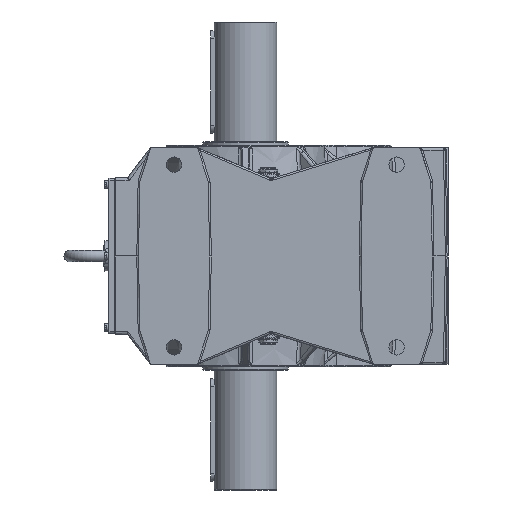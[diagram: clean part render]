
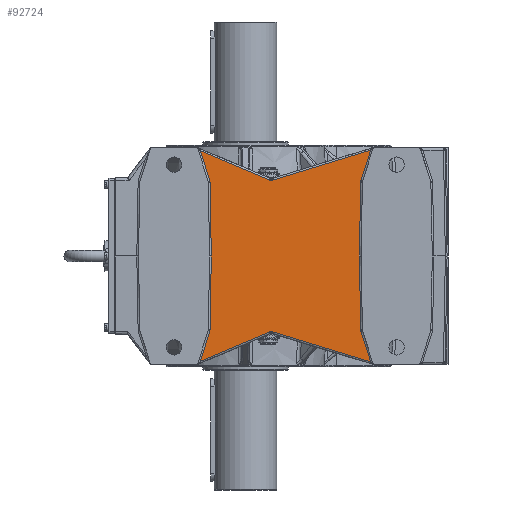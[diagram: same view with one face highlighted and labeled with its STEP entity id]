
A CAD part, left-side view. The second image highlights one B-rep face of the part: STEP entity #92724.
In plain terms, the highlighted planar face has unit normal (-1, 0, 0).
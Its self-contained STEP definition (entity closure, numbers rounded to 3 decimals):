
#92255=CARTESIAN_POINT('',(-225.0,62.36,-131.6));
#92256=VERTEX_POINT('',#92255);
#92264=CARTESIAN_POINT('',(-225.0,61.988,-129.324));
#92265=VERTEX_POINT('',#92264);
#92266=CARTESIAN_POINT('',(-225.0,69.987,-129.185));
#92267=DIRECTION('',(-1.0,0.,0.));
#92268=DIRECTION('',(0.,-0.987,-0.161));
#92269=AXIS2_PLACEMENT_3D('',#92266,#92267,#92268);
#92270=CIRCLE('',#92269,8.0);
#92271=EDGE_CURVE('',#92256,#92265,#92270,.T.);
#92297=CARTESIAN_POINT('',(-225.0,62.36,131.6));
#92298=VERTEX_POINT('',#92297);
#92307=CARTESIAN_POINT('',(-225.0,61.988,129.324));
#92308=VERTEX_POINT('',#92307);
#92316=CARTESIAN_POINT('',(-225.0,69.987,129.185));
#92317=DIRECTION('',(-1.0,0.,0.));
#92318=DIRECTION('',(0.,-0.987,0.161));
#92319=AXIS2_PLACEMENT_3D('',#92316,#92317,#92318);
#92320=CIRCLE('',#92319,8.0);
#92321=EDGE_CURVE('',#92308,#92298,#92320,.T.);
#92333=CARTESIAN_POINT('',(-225.0,59.73,0.));
#92334=VERTEX_POINT('',#92333);
#92342=CARTESIAN_POINT('',(-225.0,59.73,0.));
#92343=DIRECTION('',(0.0,0.017,1.));
#92344=VECTOR('',#92343,129.344);
#92345=LINE('',#92342,#92344);
#92346=EDGE_CURVE('',#92334,#92308,#92345,.T.);
#92357=CARTESIAN_POINT('',(-225.0,61.988,-129.324));
#92358=DIRECTION('',(0.0,-0.017,1.));
#92359=VECTOR('',#92358,129.344);
#92360=LINE('',#92357,#92359);
#92361=EDGE_CURVE('',#92265,#92334,#92360,.T.);
#92378=CARTESIAN_POINT('',(-225.,-219.416,185.461));
#92379=VERTEX_POINT('',#92378);
#92389=CARTESIAN_POINT('',(-225.,-202.36,131.6));
#92390=VERTEX_POINT('',#92389);
#92391=CARTESIAN_POINT('',(-225.,-219.416,185.461));
#92392=DIRECTION('',(0.0,0.302,-0.953));
#92393=VECTOR('',#92392,56.498);
#92394=LINE('',#92391,#92393);
#92395=EDGE_CURVE('',#92379,#92390,#92394,.T.);
#92430=CARTESIAN_POINT('',(-225.,-201.988,129.324));
#92431=VERTEX_POINT('',#92430);
#92432=CARTESIAN_POINT('',(-225.,-209.987,129.185));
#92433=DIRECTION('',(-1.0,0.,0.));
#92434=DIRECTION('',(0.,0.987,0.161));
#92435=AXIS2_PLACEMENT_3D('',#92432,#92433,#92434);
#92436=CIRCLE('',#92435,8.);
#92437=EDGE_CURVE('',#92390,#92431,#92436,.T.);
#92463=CARTESIAN_POINT('',(-225.,-202.36,-131.6));
#92464=VERTEX_POINT('',#92463);
#92483=CARTESIAN_POINT('',(-225.,-201.988,-129.324));
#92484=VERTEX_POINT('',#92483);
#92492=CARTESIAN_POINT('',(-225.,-209.987,-129.185));
#92493=DIRECTION('',(-1.0,0.,0.));
#92494=DIRECTION('',(0.,0.987,-0.161));
#92495=AXIS2_PLACEMENT_3D('',#92492,#92493,#92494);
#92496=CIRCLE('',#92495,8.);
#92497=EDGE_CURVE('',#92484,#92464,#92496,.T.);
#92516=CARTESIAN_POINT('',(-225.,-199.73,0.));
#92517=VERTEX_POINT('',#92516);
#92525=CARTESIAN_POINT('',(-225.,-199.73,0.));
#92526=DIRECTION('',(0.0,-0.017,-1.));
#92527=VECTOR('',#92526,129.344);
#92528=LINE('',#92525,#92527);
#92529=EDGE_CURVE('',#92517,#92484,#92528,.T.);
#92540=CARTESIAN_POINT('',(-225.,-201.988,129.324));
#92541=DIRECTION('',(0.0,0.017,-1.));
#92542=VECTOR('',#92541,129.344);
#92543=LINE('',#92540,#92542);
#92544=EDGE_CURVE('',#92431,#92517,#92543,.T.);
#92627=CARTESIAN_POINT('',(-225.0,79.172,184.692));
#92628=VERTEX_POINT('',#92627);
#92629=CARTESIAN_POINT('',(-225.0,62.36,131.6));
#92630=DIRECTION('',(0.0,0.302,0.953));
#92631=VECTOR('',#92630,55.69);
#92632=LINE('',#92629,#92631);
#92633=EDGE_CURVE('',#92298,#92628,#92632,.T.);
#92645=CARTESIAN_POINT('',(-225.,-350.0,0.0));
#92646=DIRECTION('',(-1.0,0.0,0.0));
#92647=DIRECTION('',(0.0,0.0,1.0));
#92648=AXIS2_PLACEMENT_3D('',#92645,#92646,#92647);
#92649=PLANE('',#92648);
#92650=CARTESIAN_POINT('',(-225.,-219.416,-185.461));
#92651=VERTEX_POINT('',#92650);
#92652=CARTESIAN_POINT('',(-225.,-46.878,-132.711));
#92653=VERTEX_POINT('',#92652);
#92654=CARTESIAN_POINT('',(-225.,-219.416,-185.461));
#92655=DIRECTION('',(0.,0.956,0.292));
#92656=VECTOR('',#92655,180.421);
#92657=LINE('',#92654,#92656);
#92658=EDGE_CURVE('',#92651,#92653,#92657,.T.);
#92659=ORIENTED_EDGE('',*,*,#92658,.F.);
#92660=CARTESIAN_POINT('',(-225.,-202.36,-131.6));
#92661=DIRECTION('',(0.0,-0.302,-0.953));
#92662=VECTOR('',#92661,56.498);
#92663=LINE('',#92660,#92662);
#92664=EDGE_CURVE('',#92464,#92651,#92663,.T.);
#92665=ORIENTED_EDGE('',*,*,#92664,.F.);
#92666=ORIENTED_EDGE('',*,*,#92497,.F.);
#92667=ORIENTED_EDGE('',*,*,#92529,.F.);
#92668=ORIENTED_EDGE('',*,*,#92544,.F.);
#92669=ORIENTED_EDGE('',*,*,#92437,.F.);
#92670=ORIENTED_EDGE('',*,*,#92395,.F.);
#92671=CARTESIAN_POINT('',(-225.,-46.878,132.711));
#92672=VERTEX_POINT('',#92671);
#92673=CARTESIAN_POINT('',(-225.,-46.878,132.711));
#92674=DIRECTION('',(0.,-0.956,0.292));
#92675=VECTOR('',#92674,180.421);
#92676=LINE('',#92673,#92675);
#92677=EDGE_CURVE('',#92672,#92379,#92676,.T.);
#92678=ORIENTED_EDGE('',*,*,#92677,.F.);
#92679=CARTESIAN_POINT('',(-225.,-42.78,132.926));
#92680=VERTEX_POINT('',#92679);
#92681=CARTESIAN_POINT('',(-225.,-45.124,138.449));
#92682=DIRECTION('',(-1.0,0.,0.));
#92683=DIRECTION('',(0.,0.052,-0.999));
#92684=AXIS2_PLACEMENT_3D('',#92681,#92682,#92683);
#92685=CIRCLE('',#92684,6.);
#92686=EDGE_CURVE('',#92680,#92672,#92685,.T.);
#92687=ORIENTED_EDGE('',*,*,#92686,.F.);
#92688=CARTESIAN_POINT('',(-225.0,79.172,184.692));
#92689=DIRECTION('',(0.,-0.921,-0.391));
#92690=VECTOR('',#92689,132.484);
#92691=LINE('',#92688,#92690);
#92692=EDGE_CURVE('',#92628,#92680,#92691,.T.);
#92693=ORIENTED_EDGE('',*,*,#92692,.F.);
#92694=ORIENTED_EDGE('',*,*,#92633,.F.);
#92695=ORIENTED_EDGE('',*,*,#92321,.F.);
#92696=ORIENTED_EDGE('',*,*,#92346,.F.);
#92697=ORIENTED_EDGE('',*,*,#92361,.F.);
#92698=ORIENTED_EDGE('',*,*,#92271,.F.);
#92699=CARTESIAN_POINT('',(-225.0,79.172,-184.692));
#92700=VERTEX_POINT('',#92699);
#92701=CARTESIAN_POINT('',(-225.0,79.172,-184.692));
#92702=DIRECTION('',(0.0,-0.302,0.953));
#92703=VECTOR('',#92702,55.69);
#92704=LINE('',#92701,#92703);
#92705=EDGE_CURVE('',#92700,#92256,#92704,.T.);
#92706=ORIENTED_EDGE('',*,*,#92705,.F.);
#92707=CARTESIAN_POINT('',(-225.,-42.78,-132.926));
#92708=VERTEX_POINT('',#92707);
#92709=CARTESIAN_POINT('',(-225.,-42.78,-132.926));
#92710=DIRECTION('',(0.,0.921,-0.391));
#92711=VECTOR('',#92710,132.484);
#92712=LINE('',#92709,#92711);
#92713=EDGE_CURVE('',#92708,#92700,#92712,.T.);
#92714=ORIENTED_EDGE('',*,*,#92713,.F.);
#92715=CARTESIAN_POINT('',(-225.,-45.124,-138.449));
#92716=DIRECTION('',(-1.0,0.,0.));
#92717=DIRECTION('',(0.,0.052,0.999));
#92718=AXIS2_PLACEMENT_3D('',#92715,#92716,#92717);
#92719=CIRCLE('',#92718,6.);
#92720=EDGE_CURVE('',#92653,#92708,#92719,.T.);
#92721=ORIENTED_EDGE('',*,*,#92720,.F.);
#92722=EDGE_LOOP('',(#92659,#92665,#92666,#92667,#92668,#92669,#92670,#92678,#92687,#92693,#92694,#92695,#92696,#92697,#92698,#92706,#92714,#92721));
#92723=FACE_OUTER_BOUND('',#92722,.T.);
#92724=ADVANCED_FACE('',(#92723),#92649,.T.);
